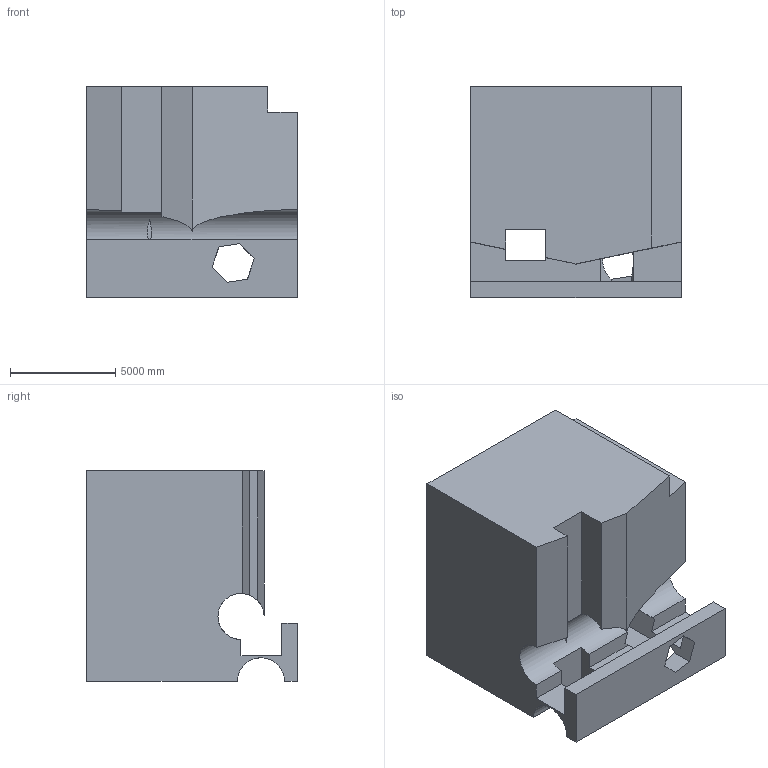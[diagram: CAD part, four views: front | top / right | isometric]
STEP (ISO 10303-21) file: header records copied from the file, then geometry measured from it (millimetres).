
FILE_DESCRIPTION (( 'STEP AP203' ), '1' );
FILE_NAME ('1762.STEP', '2022-08-19T12:41:02', ( 'user' ), ( '' ), 'SwSTEP 2.0', 'SolidWorks 2021', '' );
FILE_SCHEMA (( 'CONFIG_CONTROL_DESIGN' ));
Length unit declared in the file: centimetre
Products named in the file (1): 1762
Bounding box: 10000 x 10000 x 10000 mm (x, y, z)
Volume: 719555052976.7 mm3; surface area: 678241817.2 mm2
Topology: 1 solids, 1 shells, 44 faces, 141 edges, 94 vertices
Faces by surface type: plane 40, cylinder 4
Entity records: 1636 total; most frequent: CARTESIAN_POINT 316, ORIENTED_EDGE 282, DIRECTION 233, EDGE_CURVE 141, VECTOR 115, LINE 115, VERTEX_POINT 94, AXIS2_PLACEMENT_3D 59
